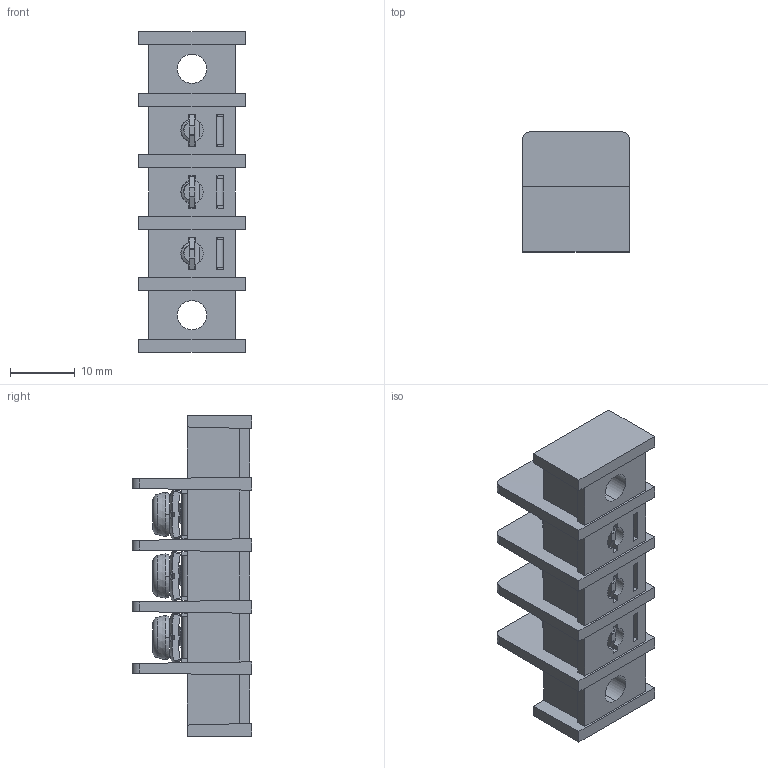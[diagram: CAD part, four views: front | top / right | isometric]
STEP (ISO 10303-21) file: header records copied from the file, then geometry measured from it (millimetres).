
FILE_DESCRIPTION((''),'2;1');
FILE_NAME('3PP','2021-05-17T',('hanke'),(''),'CREO PARAMETRIC BY PTC INC, 2016260','CREO PARAMETRIC BY PTC INC, 2016260','');
FILE_SCHEMA(('CONFIG_CONTROL_DESIGN'));
Products named in the file (1): 3PP
Bounding box: 16.5 x 18.5 x 49.5 mm (x, y, z)
Volume: 5679.4 mm3; surface area: 8704.4 mm2
Topology: 4 solids, 4 shells, 1035 faces, 3066 edges, 1993 vertices
Faces by surface type: plane 629, cylinder 222, bspline 138, cone 28, torus 18
Entity records: 49538 total; most frequent: CARTESIAN_POINT 23322, ORIENTED_EDGE 6120, DIRECTION 4563, EDGE_CURVE 3060, VERTEX_POINT 1993, VECTOR 1869, LINE 1869, AXIS2_PLACEMENT_3D 1347
